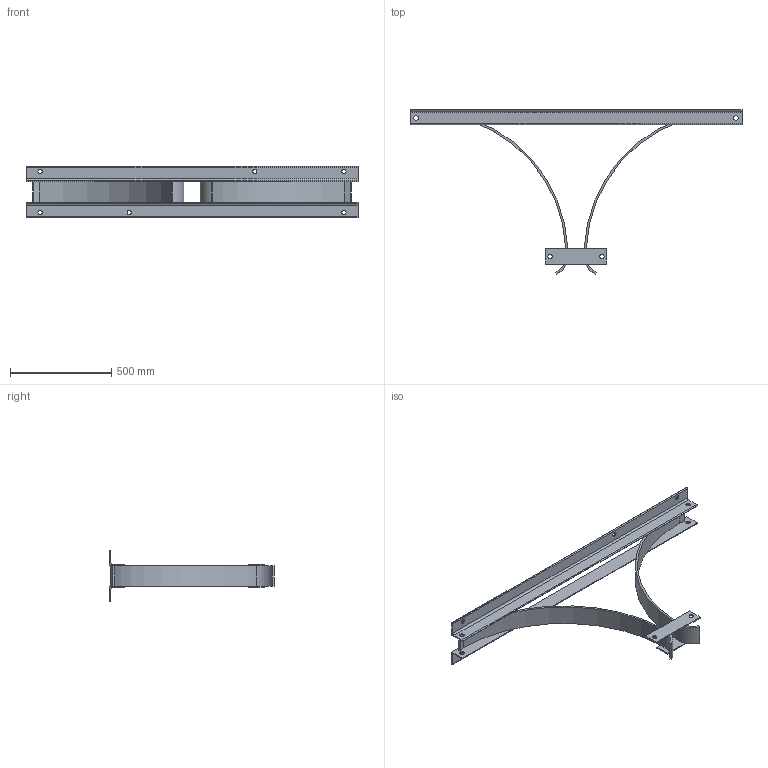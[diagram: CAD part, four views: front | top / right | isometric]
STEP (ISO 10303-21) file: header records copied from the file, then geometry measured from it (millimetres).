
FILE_DESCRIPTION(/* description */ (''),/* implementation_level */ '2;1');
FILE_NAME(/* name */ 'K:\NEMANJA\0700-6\CABLE REEL ACCESSORIES\09006604 FAF\STP NEMA\36767.stp',/* time_stamp */ '2017-12-01T10:03:01+01:00',/* author */ ('zeldjo01'),/* organization */ ('Hillmar Industries Ltd.'),/* preprocessor_version */ 'ST-DEVELOPER v16.1',/* originating_system */ 'Autodesk Inventor 2016',/* authorisation */ '');
FILE_SCHEMA (('AUTOMOTIVE_DESIGN { 1 0 10303 214 3 1 1 }'));
Length unit declared in the file: millimetre
Products named in the file (1): 36767 FAF-0700-GA FLIPOVER ANCHOR FUNNEL_Shrinkwrap_1
Bounding box: 1640 x 813.2 x 252 mm (x, y, z)
Volume: 5555139.8 mm3; surface area: 1584783.3 mm2
Topology: 3 solids, 3 shells, 86 faces, 226 edges, 144 vertices
Faces by surface type: plane 56, cylinder 30
Full cylindrical faces by diameter (mm): 22 x12
Entity records: 2645 total; most frequent: DIRECTION 452, CARTESIAN_POINT 421, ORIENTED_EDGE 404, EDGE_CURVE 202, AXIS2_PLACEMENT_3D 163, VERTEX_POINT 132, LINE 126, VECTOR 126
